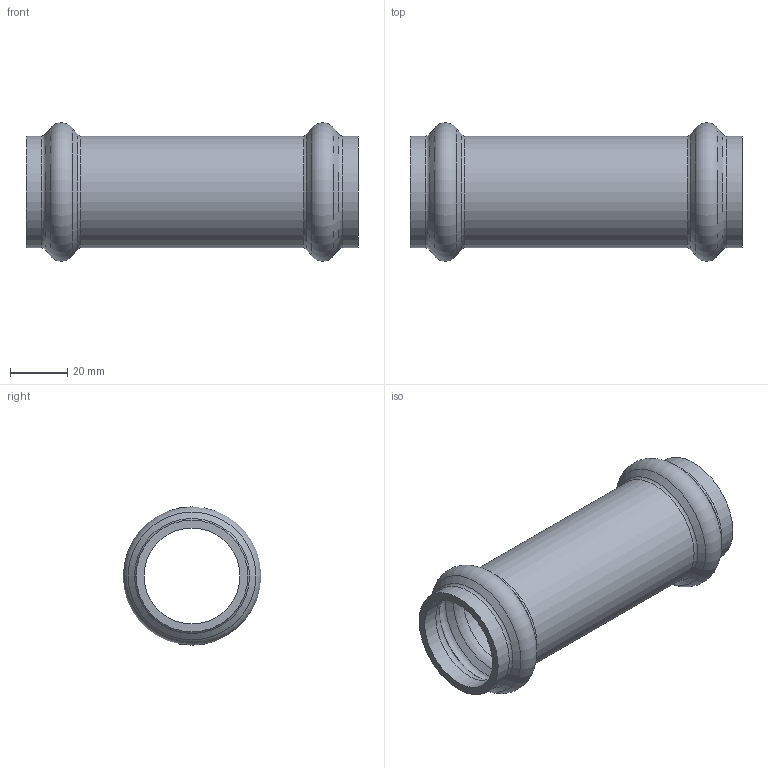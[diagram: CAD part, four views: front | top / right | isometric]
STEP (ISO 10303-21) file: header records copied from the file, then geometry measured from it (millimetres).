
FILE_DESCRIPTION(/* description */ ('VIC COUPLING STYLE P508 SLIP (P X P)','CAx-IF Rec.Pracs.---Representation and Presentation of Product Manufacturing Information (PMI)---4.0---2014-10-13'),/* implementation_level */ '2;1');
FILE_NAME(/* name */ 'C:\Users\kkamble\AppData\Roaming\Autodesk\ApplicationPlugins\Back Up\Victaulic_SS-Vic-Press-TP 316_Coupling Slip_Style P508 (VP)\Victaulic_SS-Vic-Press-TP 316_Coupling Slip_Style P508 (VP)_1 (25).stp',/* time_stamp */ '2020-08-14T11:54:25+05:00',/* author */ ('cgray'),/* organization */ ('Victaulic'),/* preprocessor_version */ 'ST-DEVELOPER v17.2',/* originating_system */ 'Autodesk Inventor 2019',/* authorisation */ '');
FILE_SCHEMA (('AP242_MANAGED_MODEL_BASED_3D_ENGINEERING_MIM_LF { 1 0 10303 442 1 1 4 }'));
Length unit declared in the file: inch
Products named in the file (1): P508-01.0
Bounding box: 115.57 x 48.13 x 48.13 mm (x, y, z)
Volume: 40026.2 mm3; surface area: 29543.6 mm2
Topology: 1 solids, 1 shells, 28 faces, 106 edges, 80 vertices
Faces by surface type: torus 12, cone 8, cylinder 6, plane 2
Full cylindrical faces by diameter (mm): 33.401 x3, 38.938 x3
Entity records: 1390 total; most frequent: DIRECTION 282, CARTESIAN_POINT 232, ORIENTED_EDGE 212, AXIS2_PLACEMENT_3D 134, EDGE_CURVE 106, CIRCLE 92, VERTEX_POINT 80, EDGE_LOOP 30
